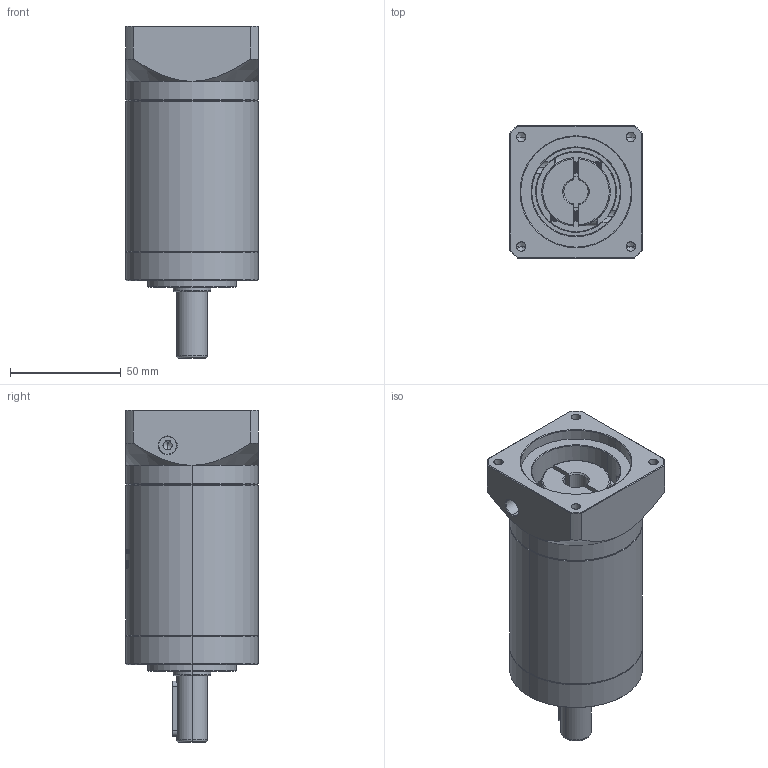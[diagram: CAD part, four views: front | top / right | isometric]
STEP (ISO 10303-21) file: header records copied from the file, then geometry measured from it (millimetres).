
FILE_DESCRIPTION (( 'STEP AP214' ), '1' );
FILE_NAME ('ZE60-D14-L3-11-50-70-M5.STEP', '2022-04-17T15:19:15', ( '' ), ( 'Microsoft' ), 'SwSTEP 2.0', 'SolidWorks 2016', '' );
FILE_SCHEMA (( 'AUTOMOTIVE_DESIGN' ));
Length unit declared in the file: millimetre
Products named in the file (1): ZE60-D14-L3-11-50-70-M5
Bounding box: 60 x 60 x 150 mm (x, y, z)
Volume: 312163.4 mm3; surface area: 49103.9 mm2
Topology: 6 solids, 6 shells, 1598 faces, 4329 edges, 2803 vertices
Faces by surface type: plane 724, cylinder 335, bspline 299, cone 220, torus 20
Entity records: 90462 total; most frequent: CARTESIAN_POINT 36361, ORIENTED_EDGE 8614, DIRECTION 6302, EDGE_CURVE 4307, VERTEX_POINT 2803, LINE 2204, VECTOR 2204, AXIS2_PLACEMENT_3D 2049
